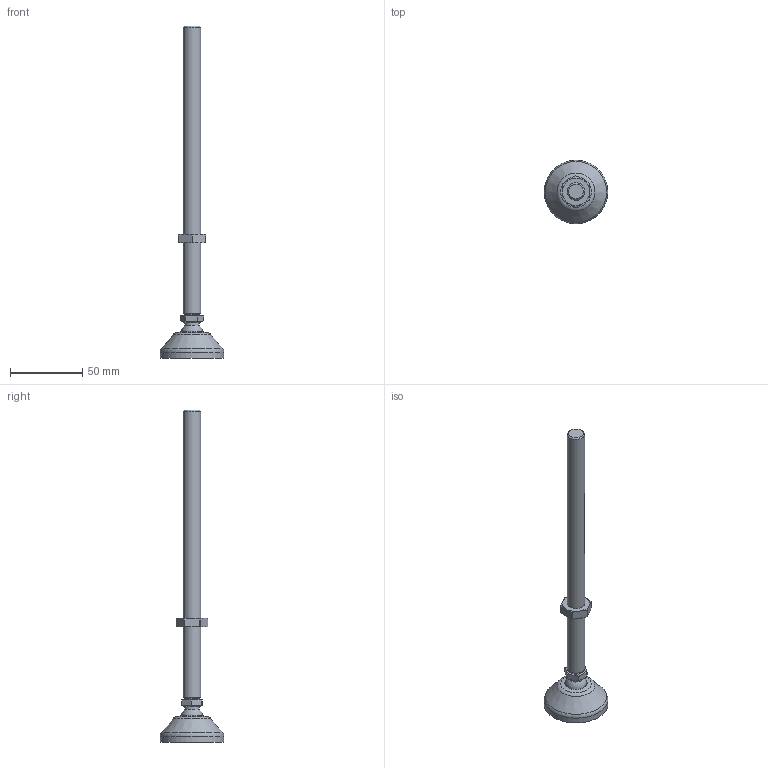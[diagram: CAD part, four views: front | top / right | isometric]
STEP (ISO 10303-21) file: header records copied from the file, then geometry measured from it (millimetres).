
FILE_DESCRIPTION(('STEP AP242'),'1');
FILE_NAME('TAPID45M12200PA.stp','2026-10-12T12:39:36',(' '),(' '),'Spatial InterOp 3D',' ',' ');
FILE_SCHEMA(('AP242_MANAGED_MODEL_BASED_3D_ENGINEERING_MIM_LF {1 0 10303 442 1 1 4}'));
Length unit declared in the file: millimetre
Products named in the file (4): TAPID45M12200PA; Ecrou H DIN 439 M12; Tige filetée M12x200 (Ø15); Embase PA Ø45 (Ø15)
Assembly tree (3 placements, depth 2):
  TAPID45M12200PA
    Ecrou H DIN 439 M12
    Tige filetée M12x200 (Ø15)
    Embase PA Ø45 (Ø15)
Bounding box: 44 x 44 x 229.5 mm (x, y, z)
Volume: 41595.4 mm3; surface area: 14956.1 mm2
Topology: 3 solids, 4 shells, 81 faces, 175 edges, 104 vertices
Faces by surface type: torus 30, plane 22, cylinder 20, cone 7, sphere 2
Full cylindrical faces by diameter (mm): 10 x1, 10.2 x1, 10.25 x1, 12 x1, 15 x1, 15.5 x1, 34 x1, 44 x1
Entity records: 3378 total; most frequent: CARTESIAN_POINT 910, DIRECTION 346, ORIENTED_EDGE 296, AXIS2_PLACEMENT_3D 161, EDGE_CURVE 148, EDGE_LOOP 108, VERTEX_POINT 100, FACE_OUTER_BOUND 95
